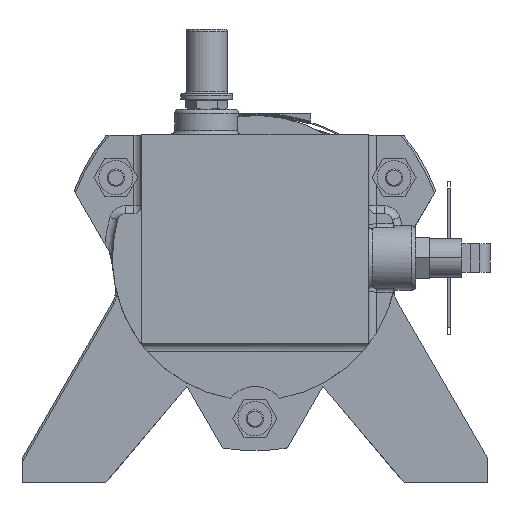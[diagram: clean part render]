
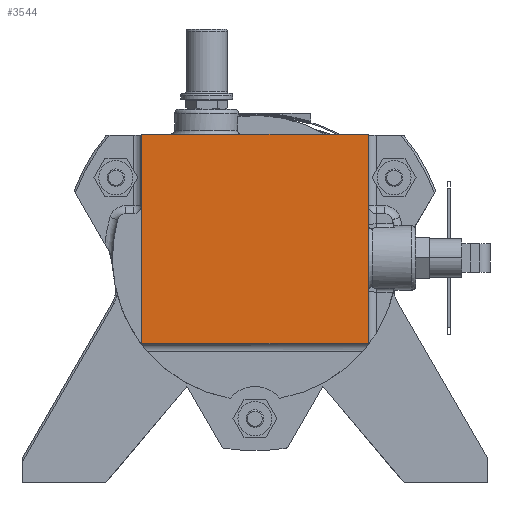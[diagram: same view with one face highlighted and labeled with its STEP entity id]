
A CAD part, front view. The second image highlights one B-rep face of the part: STEP entity #3544.
In plain terms, the highlighted planar face has unit normal (0, -1, 0).
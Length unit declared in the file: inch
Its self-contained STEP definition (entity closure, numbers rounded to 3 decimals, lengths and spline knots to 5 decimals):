
#1521=DIRECTION('',(0.,0.,-1.));
#1522=VECTOR('',#1521,3.24994);
#1523=CARTESIAN_POINT('',(1.76597,0.,1.92197));
#1524=LINE('',#1523,#1522);
#1525=DIRECTION('',(-1.,0.,0.));
#1526=VECTOR('',#1525,3.53194);
#1527=CARTESIAN_POINT('',(1.76597,0.,-1.32797));
#1528=LINE('',#1527,#1526);
#1529=DIRECTION('',(0.,0.,1.));
#1530=VECTOR('',#1529,3.24994);
#1531=CARTESIAN_POINT('',(-1.76597,0.,-1.32797));
#1532=LINE('',#1531,#1530);
#1533=DIRECTION('',(1.,0.,0.));
#1534=VECTOR('',#1533,3.53194);
#1535=CARTESIAN_POINT('',(-1.76597,0.,1.92197));
#1536=LINE('',#1535,#1534);
#1872=CARTESIAN_POINT('',(1.76597,0.,-1.32797));
#1873=CARTESIAN_POINT('',(1.76597,0.,1.92197));
#1874=VERTEX_POINT('',#1872);
#1875=VERTEX_POINT('',#1873);
#1876=CARTESIAN_POINT('',(-1.76597,0.,1.92197));
#1877=VERTEX_POINT('',#1876);
#1878=CARTESIAN_POINT('',(-1.76597,0.,-1.32797));
#1879=VERTEX_POINT('',#1878);
#3529=CARTESIAN_POINT('',(1.80552,0.,2.3125));
#3530=DIRECTION('',(0.,1.,0.));
#3531=DIRECTION('',(-1.,0.,0.));
#3532=AXIS2_PLACEMENT_3D('',#3529,#3530,#3531);
#3533=PLANE('',#3532);
#3535=ORIENTED_EDGE('',*,*,#3534,.T.);
#3537=ORIENTED_EDGE('',*,*,#3536,.T.);
#3539=ORIENTED_EDGE('',*,*,#3538,.T.);
#3541=ORIENTED_EDGE('',*,*,#3540,.T.);
#3542=EDGE_LOOP('',(#3535,#3537,#3539,#3541));
#3543=FACE_OUTER_BOUND('',#3542,.F.);
#3544=ADVANCED_FACE('',(#3543),#3533,.F.);
#3534=EDGE_CURVE('',#1875,#1874,#1524,.T.);
#3536=EDGE_CURVE('',#1874,#1879,#1528,.T.);
#3538=EDGE_CURVE('',#1879,#1877,#1532,.T.);
#3540=EDGE_CURVE('',#1877,#1875,#1536,.T.);
